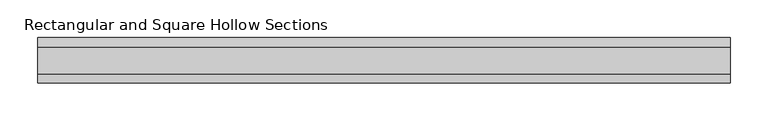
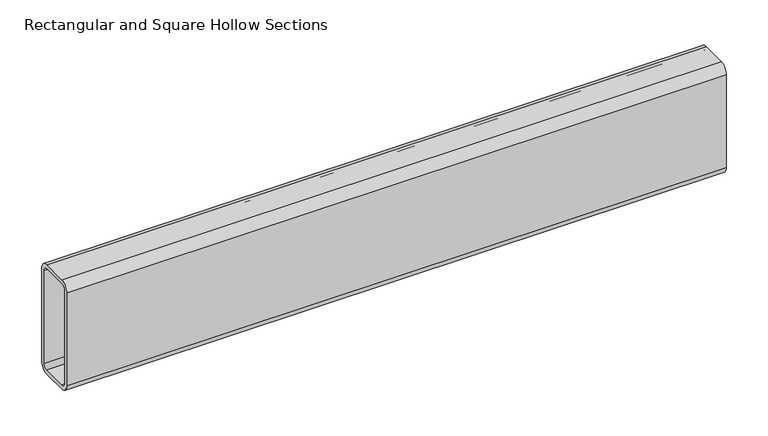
"""IFC4 building model written with IfcOpenShell, lengths in millimetres: beam geometry, Rectangular and Square Hollow Sections : TREC160x60x6."""

from ifc_helpers import new_model, si_unit, point, frame, frame_2d, origin, place, context, project, spatial, polyline, circle_curve, trimmed, segment, composite_curve, outline, extrude, source, transform, mapped, element, save


def rectangular_and_square_hollow_sections_2304ee3f(model_context):
    return source(origin(), model_context, "Body", "SweptSolid", [
        extrude(outline(composite_curve([segment(polyline([(30.0, 68.0), (30.0, -68.0)]), True, "CONTINUOUS"), segment(trimmed(circle_curve(frame_2d((18.0, -68.0)), 12.0), [point((30.0, -68.0))], [point((18.0, -80.0))], False, "CARTESIAN"), True, "CONTINUOUS"), segment(polyline([(18.0, -80.0), (-18.0, -80.0)]), True, "CONTINUOUS"), segment(trimmed(circle_curve(frame_2d((-18.0, -68.0)), 12.0), [point((-18.0, -80.0))], [point((-30.0, -68.0))], False, "CARTESIAN"), True, "CONTINUOUS"), segment(polyline([(-30.0, -68.0), (-30.0, 68.0)]), True, "CONTINUOUS"), segment(trimmed(circle_curve(frame_2d((-18.0, 68.0)), 12.0), [point((-30.0, 68.0))], [point((-18.0, 80.0))], False, "CARTESIAN"), True, "CONTINUOUS"), segment(polyline([(-18.0, 80.0), (18.0, 80.0)]), True, "CONTINUOUS"), segment(trimmed(circle_curve(frame_2d((18.0, 68.0)), 12.0), [point((18.0, 80.0))], [point((30.0, 68.0))], False, "CARTESIAN"), True, "CONTINUOUS")], self_intersect=False), holes=[composite_curve([segment(trimmed(circle_curve(frame_2d((-18.0, 68.0)), 6.0), [point((-18.0, 74.0))], [point((-24.0, 68.0))], True, "CARTESIAN"), True, "CONTINUOUS"), segment(polyline([(-24.0, 68.0), (-24.0, -68.0)]), True, "CONTINUOUS"), segment(trimmed(circle_curve(frame_2d((-18.0, -68.0)), 6.0), [point((-24.0, -68.0))], [point((-18.0, -74.0))], True, "CARTESIAN"), True, "CONTINUOUS"), segment(polyline([(-18.0, -74.0), (18.0, -74.0)]), True, "CONTINUOUS"), segment(trimmed(circle_curve(frame_2d((18.0, -68.0)), 6.0), [point((18.0, -74.0))], [point((24.0, -68.0))], True, "CARTESIAN"), True, "CONTINUOUS"), segment(polyline([(24.0, -68.0), (24.0, 68.0)]), True, "CONTINUOUS"), segment(trimmed(circle_curve(frame_2d((18.0, 68.0)), 6.0), [point((24.0, 68.0))], [point((18.0, 74.0))], True, "CARTESIAN"), True, "CONTINUOUS"), segment(polyline([(18.0, 74.0), (-18.0, 74.0)]), True, "CONTINUOUS")], self_intersect=False)]), frame((-449.5, 0.0, 0.0), z_axis=(1.0, 0.0, 0.0), x_axis=(0.0, 1.0, 0.0)), (0.0, 0.0, 1.0), 912.0),
    ])


if __name__ == "__main__":
    model = new_model("IFC4")
    model_context = context("Model", 3, world=origin())
    ifc_project = project(units=[si_unit("LENGTHUNIT", "METRE", prefix="MILLI")], contexts=[model_context])
    site = spatial("IfcSite", under=ifc_project)
    building = spatial("IfcBuilding", under=site)
    placement = place(None, origin())
    rectangular_and_square_hollow_sections_shape = rectangular_and_square_hollow_sections_2304ee3f(model_context)
    element("IfcBeam", 1, ObjectType="Rectangular and Square Hollow Sections : TREC160x60x6", at=placement, inside=building, context=model_context, shape_type="MappedRepresentation", body=[
        mapped(rectangular_and_square_hollow_sections_shape, transform((0.0, 0.0, 0.0), x_axis=(1.0, 0.0, 0.0), y_axis=(0.0, 1.0, 0.0), z_axis=(0.0, 0.0, 1.0))),
    ])
    save(model, "model.ifc")
